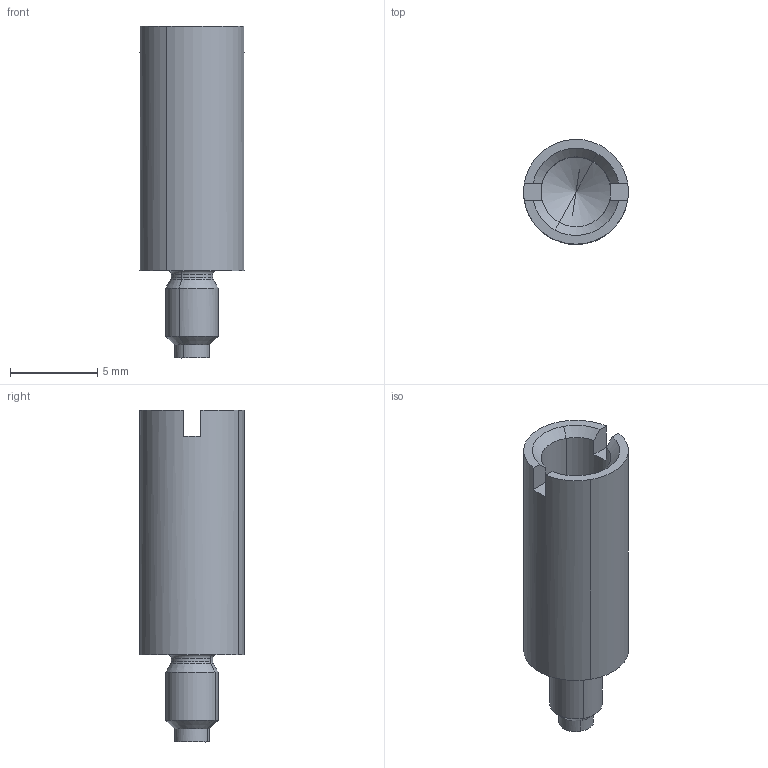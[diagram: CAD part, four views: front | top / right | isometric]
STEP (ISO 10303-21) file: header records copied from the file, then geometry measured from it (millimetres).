
FILE_DESCRIPTION(('Open CASCADE Model'),'2;1');
FILE_NAME('Open CASCADE Shape Model','2024-07-16T17:17:39',('Author'),( 'Open CASCADE'),'Open CASCADE STEP processor 6.5','Open CASCADE 6.5' ,'Unknown');
FILE_SCHEMA(('AUTOMOTIVE_DESIGN { 1 0 10303 214 1 1 1 1 }'));
Length unit declared in the file: millimetre
Products named in the file (35): CADSOFTTOOLS 4; CADSOFTTOOLS 4.1; CADSOFTTOOLS 4.2; CADSOFTTOOLS 4.3; CADSOFTTOOLS 4.4; CADSOFTTOOLS 4.5; CADSOFTTOOLS 4.6; CADSOFTTOOLS 4.7; CADSOFTTOOLS 4.8; CADSOFTTOOLS 4.9; CADSOFTTOOLS 4.10; CADSOFTTOOLS 4.11; CADSOFTTOOLS 4.12; CADSOFTTOOLS 4.13; CADSOFTTOOLS 4.14; CADSOFTTOOLS 4.15; CADSOFTTOOLS 4.16; CADSOFTTOOLS 4.17; CADSOFTTOOLS 4.18; CADSOFTTOOLS 4.19; CADSOFTTOOLS 4.20; CADSOFTTOOLS 4.21; CADSOFTTOOLS 4.22; CADSOFTTOOLS 4.23; CADSOFTTOOLS 4.24; CADSOFTTOOLS 4.25; CADSOFTTOOLS 4.26; CADSOFTTOOLS 4.27; CADSOFTTOOLS 4.28; CADSOFTTOOLS 4.29; CADSOFTTOOLS 4.30; CADSOFTTOOLS 4.31; CADSOFTTOOLS 4.32; CADSOFTTOOLS 4.33; CADSOFTTOOLS 4.34
Assembly tree (34 placements, depth 2):
  CADSOFTTOOLS 4
    CADSOFTTOOLS 4.1
    CADSOFTTOOLS 4.2
    CADSOFTTOOLS 4.3
    CADSOFTTOOLS 4.4
    CADSOFTTOOLS 4.5
    CADSOFTTOOLS 4.6
    CADSOFTTOOLS 4.7
    CADSOFTTOOLS 4.8
    CADSOFTTOOLS 4.9
    CADSOFTTOOLS 4.10
    CADSOFTTOOLS 4.11
    CADSOFTTOOLS 4.12
    CADSOFTTOOLS 4.13
    CADSOFTTOOLS 4.14
    CADSOFTTOOLS 4.15
    CADSOFTTOOLS 4.16
    CADSOFTTOOLS 4.17
    CADSOFTTOOLS 4.18
    CADSOFTTOOLS 4.19
    CADSOFTTOOLS 4.20
    CADSOFTTOOLS 4.21
    CADSOFTTOOLS 4.22
    CADSOFTTOOLS 4.23
    CADSOFTTOOLS 4.24
    CADSOFTTOOLS 4.25
    CADSOFTTOOLS 4.26
    CADSOFTTOOLS 4.27
    CADSOFTTOOLS 4.28
    CADSOFTTOOLS 4.29
    CADSOFTTOOLS 4.30
    CADSOFTTOOLS 4.31
    CADSOFTTOOLS 4.32
    CADSOFTTOOLS 4.33
    CADSOFTTOOLS 4.34
Bounding box: 5.99 x 6 x 19 mm (x, y, z)
Surface area: 519.2 mm2 (no closed solid volume)
Topology: 0 solids, 34 shells, 34 faces, 158 edges, 156 vertices
Faces by surface type: cone 10, cylinder 10, plane 10, torus 4
Entity records: 5132 total; most frequent: CARTESIAN_POINT 2569, DIRECTION 382, ORIENTED_EDGE 156, EDGE_CURVE 156, VERTEX_POINT 156, SURFACE_CURVE 156, PCURVE 156, DEFINITIONAL_REPRESENTATION 156
